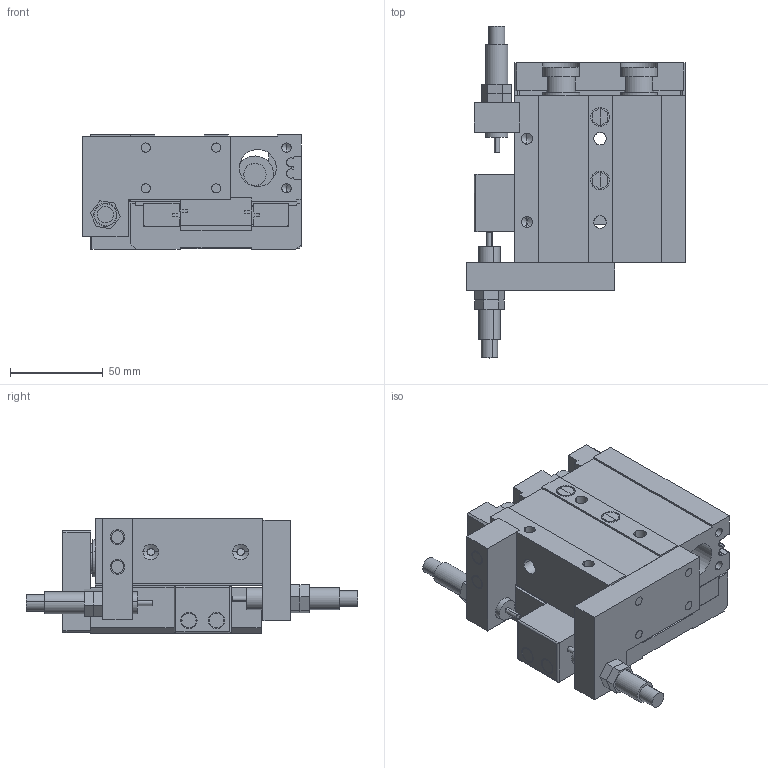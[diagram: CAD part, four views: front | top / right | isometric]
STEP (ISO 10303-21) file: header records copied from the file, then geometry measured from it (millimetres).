
FILE_DESCRIPTION (( 'STEP AP203' ), '1' );
FILE_NAME ('GDX25-20.STEP', '2013-02-28T08:35:16', ( 'Conseil Régional Haute-Normandie' ), ( 'Conseil Régional Haute-Normandie' ), 'SwSTEP 2.0', 'SolidWorks 2010', '' );
FILE_SCHEMA (( 'CONFIG_CONTROL_DESIGN' ));
Length unit declared in the file: millimetre
Products named in the file (17): Pièce10 GDX25-10_Default; Pièce7 amortisseur GDX25-10_Default; Pièce14 GDX25-10_Default; Pièce1 GDX25-10_Default; Pièce15 GDX25-10_Default; Pièce17 GDX 25-10_Default; GDX25-20; Pièce1 GDX25-20_Default; Pièce8 tige amortisseur GDX25-10_Default; Pièce11 GDX25-10_Default; Pièce4 GDX25-10_Default; Pièce5 GDX25-10_Default; Pièce3 GDX25-10_Default; Pièce2 GDX25-10 Vis pièce1_Default; Pièce12 GDX25-10_Default; Pièce6 boulon GDX25-10_Default; Pièce16 GDX 25-10_Default
Assembly tree (37 placements, depth 2):
  GDX25-20
    Pièce6 boulon GDX25-10_Default  x4
    Pièce1 GDX25-10_Default
    Pièce15 GDX25-10_Default
    Pièce12 GDX25-10_Default  x2
    Pièce2 GDX25-10 Vis pièce1_Default  x2
    Pièce17 GDX 25-10_Default  x8
    Pièce11 GDX25-10_Default  x2
    Pièce16 GDX 25-10_Default  x6
    Pièce1 GDX25-20_Default
    Pièce8 tige amortisseur GDX25-10_Default  x2
    Pièce7 amortisseur GDX25-10_Default  x2
    Pièce3 GDX25-10_Default
    Pièce10 GDX25-10_Default  x2
    Pièce4 GDX25-10_Default
    Pièce5 GDX25-10_Default
    Pièce14 GDX25-10_Default
Bounding box: 118 x 179.22 x 62.07 mm (x, y, z)
Volume: 574136.2 mm3; surface area: 159075.6 mm2
Topology: 39 solids, 39 shells, 866 faces, 2140 edges, 1384 vertices
Faces by surface type: plane 424, cylinder 243, bspline 133, cone 58, torus 8
Entity records: 33730 total; most frequent: CARTESIAN_POINT 15084, ORIENTED_EDGE 3506, DIRECTION 3005, EDGE_CURVE 1753, VERTEX_POINT 1156, VECTOR 1111, LINE 1111, AXIS2_PLACEMENT_3D 947
